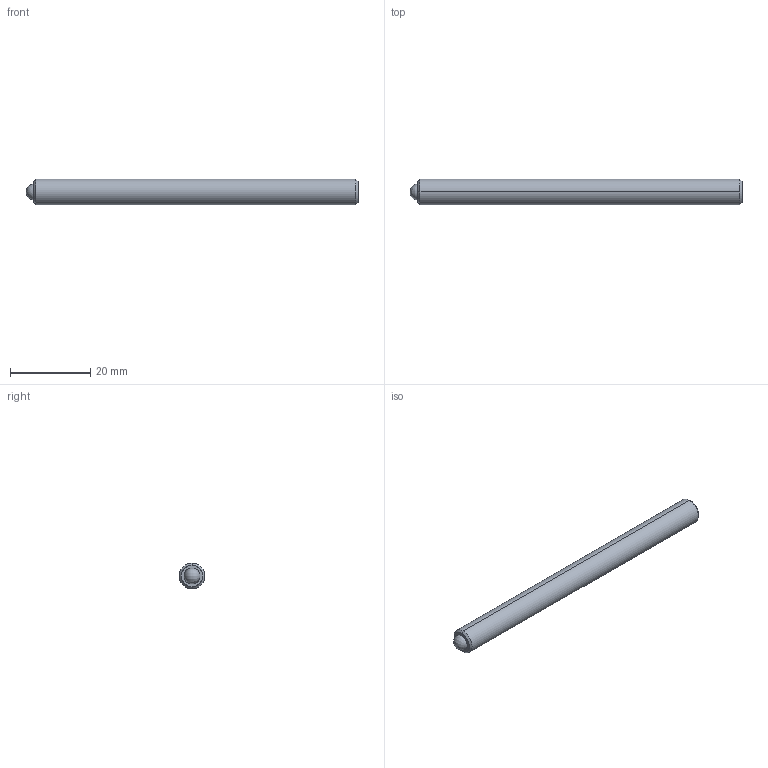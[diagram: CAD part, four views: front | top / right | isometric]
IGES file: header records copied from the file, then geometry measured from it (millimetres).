
Start section: SolidWorks IGES file using analytic representation for surfaces
Global section: file name: C:\Users\workpc\Desktop\KMA Solidworks\TS250-80-3250.IGS; native system: SolidWorks 2013; preprocessor: SolidWorks 2013; author: workpc; date: 130211.161140; units: inch
Bounding box: 82.54 x 6.35 x 6.35 mm (x, y, z)
Surface area: 1751 mm2 (no closed solid volume)
Topology: 0 solids, 0 shells, 20 faces, 204 edges, 200 vertices
Faces by surface type: revolution 10, bspline 10
